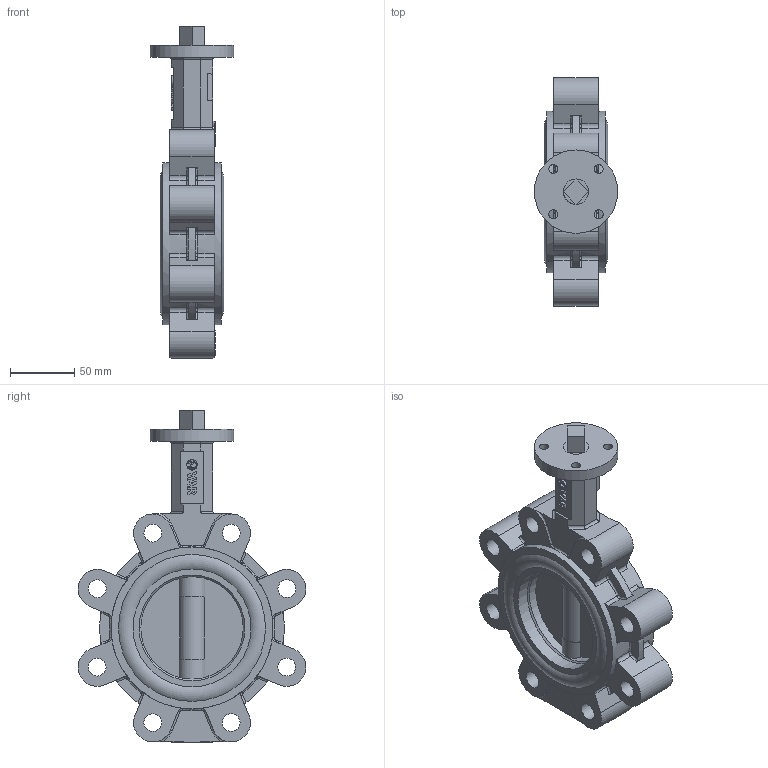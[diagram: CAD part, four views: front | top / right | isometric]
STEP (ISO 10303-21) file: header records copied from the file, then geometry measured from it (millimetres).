
FILE_DESCRIPTION(('STEP AP242'), '1');
FILE_NAME('Ïîâîðîòíûé çàòâîð ïîä ýëåêòðîïðèâîä', '', ('UNSPECIFIED'), ('UNSPECIFIED'), 'C3D Converter', 'C3D Toolkit', '');
FILE_SCHEMA(('AP242_MANAGED_MODEL_BASED_3D_ENGINEERING_MIM_LF { 1 0 10303 442 1 1 4 }'));
Length unit declared in the file: millimetre
Products named in the file (6): П
Assembly tree (6 placements, depth 2):
  (unnamed)
    (unnamed)
    П  x2
    (unnamed)
    (unnamed)
    (unnamed)
Bounding box: 65 x 177.79 x 259 mm (x, y, z)
Volume: 747285.6 mm3; surface area: 190287.6 mm2
Topology: 6 solids, 6 shells, 570 faces, 1486 edges, 960 vertices
Faces by surface type: plane 223, extrusion 153, cylinder 132, torus 58, cone 4
Full cylindrical faces by diameter (mm): 7 x4, 8.223 x1, 13.835 x8, 14 x5, 15.4 x1, 19.799 x5, 21.66 x4, 65 x1, 80 x1, 82.4 x2, 92 x2, 103.333 x4, 114.667 x4, 126.347 x2
Entity records: 22418 total; most frequent: CARTESIAN_POINT 6764, ORIENTED_EDGE 2856, DIRECTION 2404, EDGE_CURVE 1428, VERTEX_POINT 955, VECTOR 854, AXIS2_PLACEMENT_3D 775, LINE 701
